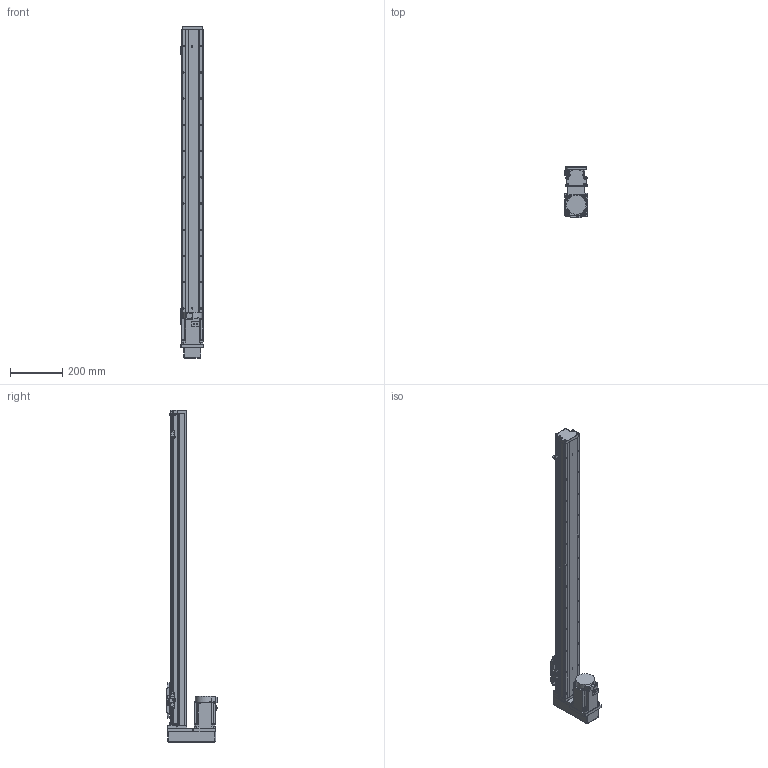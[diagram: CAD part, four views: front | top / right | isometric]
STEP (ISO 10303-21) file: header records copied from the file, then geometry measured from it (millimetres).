
FILE_DESCRIPTION (( 'STEP AP203' ), '1' );
FILE_NAME ('GTH8-1000-BM-M75-C4.step', '2023-02-14T02:27:03', ( '微软用户' ), ( '微软中国' ), 'SwSTEP 2.0', 'SolidWorks 2020', '' );
FILE_SCHEMA (( 'CONFIG_CONTROL_DESIGN' ));
Length unit declared in the file: millimetre
Products named in the file (18): GBT 70.3-M3℅6; GBT96.1-2002 3×0.8; GTH80-022; BTH-M3X5X6; GTH80-001_1000; GBT 70.1-M3℅6; CTHA86-015-3_CTHA86-015-4; GTH80-003; GBT 70.1-M4×16; CTHA86-035; GTH80-004; GTH80-028; hg-kn73j_-s100; GTH80-006; GTH50-024; GTH8-1000-BM-M75-C4; GTH80-013; GTH50-023
Assembly tree (57 placements, depth 2):
  GTH8-1000-BM-M75-C4
    GTH80-001_1000
    GTH80-003
    GTH80-004
    GTH80-006
    GTH80-013
    GBT 70.3-M3℅6  x4
    GTH80-022
    GBT 70.1-M3℅6  x14
    GBT 70.1-M4×16  x8
    GTH80-028  x2
    GTH50-024  x3
    GTH50-023  x3
    GBT96.1-2002 3×0.8  x6
    BTH-M3X5X6  x8
    CTHA86-015-3_CTHA86-015-4
    CTHA86-035
    hg-kn73j_-s100
Bounding box: 89.4 x 195.3 x 1266 mm (x, y, z)
Volume: 6696658.6 mm3; surface area: 639516.3 mm2
Topology: 59 solids, 59 shells, 2211 faces, 5142 edges, 3152 vertices
Faces by surface type: plane 1153, cylinder 643, cone 243, torus 158, sphere 12, bspline 2
Entity records: 40180 total; most frequent: CARTESIAN_POINT 6743, DIRECTION 6641, ORIENTED_EDGE 6094, EDGE_CURVE 3047, AXIS2_PLACEMENT_3D 2350, LINE 1941, VECTOR 1941, VERTEX_POINT 1927
